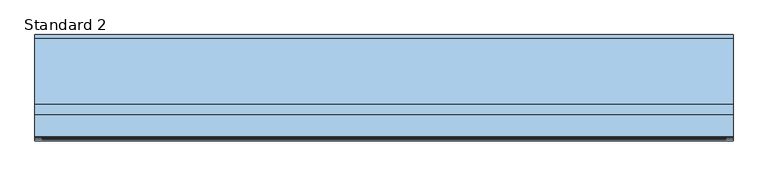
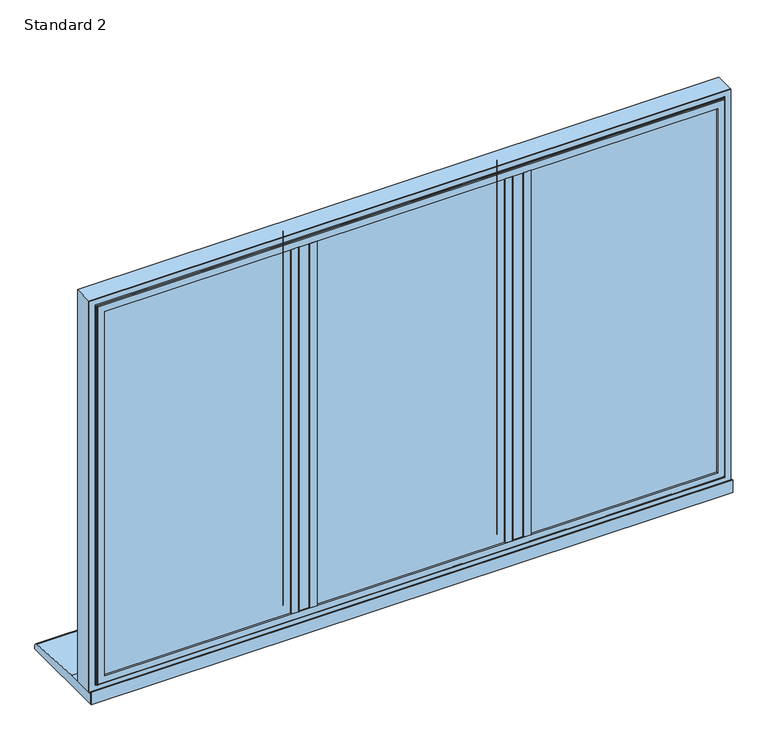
"""IFC4 building model written with IfcOpenShell, lengths in millimetres: window geometry, SMARTS_AlithermHeritage : Standard 2."""

from ifc_helpers import new_model, si_unit, point, frame, frame_2d, origin, place, context, project, spatial, polyline, circle_curve, ellipse_curve, trimmed, segment, composite_curve, outline, extrude, faceted_brep, source, transform, mapped, element, save
from ifc_brep_helpers import plane_surface, cylinder_surface, revolved_surface, advanced_brep


def standard_2_6f74c63c(model_context):
    return source(origin(), model_context, "Body", "SolidModel", [
        extrude(outline(polyline([(-260.3608122, 95.2798432), (-232.9725211, 95.2798432), (-232.9725211, 47.279476), (-260.3608122, 47.279476), (-260.3608122, 95.2798432)])), frame((0.0, 0.0, 652.6941456), z_axis=(0.0, 0.0, 1.0), x_axis=(1.0, 0.0, 0.0)), (0.0, 0.0, 1.0), 919.6117089),
        extrude(outline(composite_curve([segment(polyline([(-275.6666667, 47.279476), (-217.6666667, 47.279476), (-217.6666667, 43.2798432), (-233.6666667, 43.2798432)]), True, "CONTINUOUS"), segment(trimmed(circle_curve(frame_2d((-233.6666667, 44.2798432)), 1.0), [point((-233.6666667, 43.2798432))], [point((-234.6666667, 44.2798432))], False, "CARTESIAN"), True, "CONTINUOUS"), segment(polyline([(-234.6666667, 44.2798432), (-234.6666667, 45.7798432), (-258.6666667, 45.7798432), (-258.6666667, 44.2798432)]), True, "CONTINUOUS"), segment(trimmed(circle_curve(frame_2d((-259.6666667, 44.2798432)), 1.0), [point((-258.6666667, 44.2798432))], [point((-259.6666667, 43.2798432))], False, "CARTESIAN"), True, "CONTINUOUS"), segment(polyline([(-259.6666667, 43.2798432), (-275.6666667, 43.2798432), (-275.6666667, 47.279476)]), True, "CONTINUOUS")], self_intersect=False)), frame((0.0, 0.0, 668.0), z_axis=(0.0, 0.0, 1.0), x_axis=(1.0, 0.0, 0.0)), (0.0, 0.0, 1.0), 889.0),
        extrude(outline(polyline([(232.9725211, 95.2798432), (260.3608122, 95.2798432), (260.3608122, 47.279476), (232.9725211, 47.279476), (232.9725211, 95.2798432)])), frame((0.0, 0.0, 652.6941456), z_axis=(0.0, 0.0, 1.0), x_axis=(1.0, 0.0, 0.0)), (0.0, 0.0, 1.0), 919.6117089),
        extrude(outline(composite_curve([segment(polyline([(217.6666667, 47.279476), (275.6666667, 47.279476), (275.6666667, 43.2798432), (259.6666667, 43.2798432)]), True, "CONTINUOUS"), segment(trimmed(circle_curve(frame_2d((259.6666667, 44.2798432)), 1.0), [point((259.6666667, 43.2798432))], [point((258.6666667, 44.2798432))], False, "CARTESIAN"), True, "CONTINUOUS"), segment(polyline([(258.6666667, 44.2798432), (258.6666667, 45.7798432), (234.6666667, 45.7798432), (234.6666667, 44.2798432)]), True, "CONTINUOUS"), segment(trimmed(circle_curve(frame_2d((233.6666667, 44.2798432)), 1.0), [point((234.6666667, 44.2798432))], [point((233.6666667, 43.2798432))], False, "CARTESIAN"), True, "CONTINUOUS"), segment(polyline([(233.6666667, 43.2798432), (217.6666667, 43.2798432), (217.6666667, 47.279476)]), True, "CONTINUOUS")], self_intersect=False)), frame((0.0, 0.0, 668.0), z_axis=(0.0, 0.0, 1.0), x_axis=(1.0, 0.0, 0.0)), (0.0, 0.0, 1.0), 889.0),
        extrude(outline(polyline([(-717.0, 75.2798432), (-265.6666667, 75.2798432), (-265.6666667, 71.2798432), (-717.0, 71.2798432), (-717.0, 75.2798432)])), frame((0.0, 0.0, 658.0), z_axis=(0.0, 0.0, 1.0), x_axis=(1.0, 0.0, 0.0)), (0.0, 0.0, 1.0), 909.0),
        extrude(outline(polyline([(-717.0, 55.2798432), (-265.6666667, 55.2798432), (-265.6666667, 51.2798432), (-717.0, 51.2798432), (-717.0, 55.2798432)])), frame((0.0, 0.0, 658.0), z_axis=(0.0, 0.0, 1.0), x_axis=(1.0, 0.0, 0.0)), (0.0, 0.0, 1.0), 909.0),
        extrude(outline(polyline([(1567.0, -717.0), (658.0, -717.0), (658.0, -265.6666667), (1567.0, -265.6666667), (1567.0, -717.0)]), holes=[polyline([(1557.0, -275.6666667), (668.0, -275.6666667), (668.0, -707.0), (1557.0, -707.0), (1557.0, -275.6666667)])]), frame((0.0, 55.2798432, 0.0), z_axis=(0.0, 1.0, 0.0), x_axis=(0.0, 0.0, 1.0)), (0.0, 0.0, 1.0), 16.0),
        faceted_brep([(-265.8517818, 95.2798432, 1566.8148849), (-275.6666667, 78.2798098, 1557.0), (-707.0, 78.2798098, 1557.0), (-716.8148849, 95.2798432, 1566.8148849), (-260.2963991, 78.2798098, 1572.3702676), (-260.2963991, 95.2798432, 1572.3702676), (-722.3702676, 95.2798432, 1572.3702676), (-722.3702676, 78.2798098, 1572.3702676), (-722.3702676, 78.2798098, 652.6297324), (-722.3702676, 95.2798432, 652.6297324), (-260.2963991, 95.2798432, 652.6297324), (-260.2963991, 78.2798098, 652.6297324), (-716.8148849, 95.2798432, 658.1851151), (-265.8517818, 95.2798432, 658.1851151), (-275.6666667, 78.2798098, 668.0), (-707.0, 78.2798098, 668.0)], [[[0, 1, 2, 3]], [[4, 5, 6, 7]], [[8, 9, 10, 11]], [[5, 10, 9, 6], [3, 12, 13, 0]], [[7, 8, 11, 4], [1, 14, 15, 2]], [[3, 2, 15, 12]], [[7, 6, 9, 8]], [[12, 15, 14, 13]], [[13, 14, 1, 0]], [[11, 10, 5, 4]]]),
        extrude(outline(polyline([(-227.6666667, 75.2798432), (227.6666667, 75.2798432), (227.6666667, 71.2798432), (-227.6666667, 71.2798432), (-227.6666667, 75.2798432)])), frame((0.0, 0.0, 658.0), z_axis=(0.0, 0.0, 1.0), x_axis=(1.0, 0.0, 0.0)), (0.0, 0.0, 1.0), 909.0),
        extrude(outline(polyline([(-227.6666667, 55.2798432), (227.6666667, 55.2798432), (227.6666667, 51.2798432), (-227.6666667, 51.2798432), (-227.6666667, 55.2798432)])), frame((0.0, 0.0, 658.0), z_axis=(0.0, 0.0, 1.0), x_axis=(1.0, 0.0, 0.0)), (0.0, 0.0, 1.0), 909.0),
        extrude(outline(polyline([(1567.0, -227.6666667), (658.0, -227.6666667), (658.0, 227.6666667), (1567.0, 227.6666667), (1567.0, -227.6666667)]), holes=[polyline([(1557.0, 217.6666667), (668.0, 217.6666667), (668.0, -217.6666667), (1557.0, -217.6666667), (1557.0, 217.6666667)])]), frame((0.0, 55.2798432, 0.0), z_axis=(0.0, 1.0, 0.0), x_axis=(0.0, 0.0, 1.0)), (0.0, 0.0, 1.0), 16.0),
        faceted_brep([(227.4815515, 95.2798432, 1566.8148849), (217.6666667, 78.2798098, 1557.0), (-217.6666667, 78.2798098, 1557.0), (-227.4815515, 95.2798432, 1566.8148849), (233.0369343, 78.2798098, 1572.3702676), (233.0369343, 95.2798432, 1572.3702676), (-233.0369343, 95.2798432, 1572.3702676), (-233.0369343, 78.2798098, 1572.3702676), (-233.0369343, 78.2798098, 652.6297324), (-233.0369343, 95.2798432, 652.6297324), (233.0369343, 95.2798432, 652.6297324), (233.0369343, 78.2798098, 652.6297324), (-227.4815515, 95.2798432, 658.1851151), (227.4815515, 95.2798432, 658.1851151), (217.6666667, 78.2798098, 668.0), (-217.6666667, 78.2798098, 668.0)], [[[0, 1, 2, 3]], [[4, 5, 6, 7]], [[8, 9, 10, 11]], [[5, 10, 9, 6], [3, 12, 13, 0]], [[7, 8, 11, 4], [1, 14, 15, 2]], [[3, 2, 15, 12]], [[7, 6, 9, 8]], [[12, 15, 14, 13]], [[13, 14, 1, 0]], [[11, 10, 5, 4]]]),
        extrude(outline(polyline([(1590.0, 740.0), (1590.0, -740.0), (635.0, -740.0), (635.0, 740.0), (1590.0, 740.0)]), holes=[polyline([(652.7000182, 722.2999818), (652.7000182, -722.2999818), (1572.2999818, -722.2999818), (1572.2999818, 722.2999818), (652.7000182, 722.2999818)])]), frame((0.0, 50.279857, 0.0), z_axis=(0.0, 1.0, 0.0), x_axis=(0.0, 0.0, 1.0)), (0.0, 0.0, 1.0), 44.9999962),
        advanced_brep(
        [(707.0, 43.2798432, 1557.0), (707.0, 47.2798432, 1557.0), (707.0, 47.2798432, 668.0), (707.0, 43.2798432, 668.0), (740.0, 50.279857, 1590.0), (740.0, 48.279857, 1590.0), (740.0, 48.279857, 635.0), (740.0, 50.279857, 635.0), (722.4999818, 43.2798432, 1572.4999818), (-722.4999818, 43.2798432, 1572.4999818), (-722.4999818, 43.2798432, 652.5000182), (722.4999818, 43.2798432, 652.5000182), (-707.0, 43.2798432, 668.0), (-707.0, 43.2798432, 1557.0), (-740.0, 50.279857, 1590.0), (-740.0, 48.279857, 1590.0), (-740.0, 50.279857, 635.0), (722.2999818, 50.279857, 1572.2999818), (-722.2999818, 50.279857, 1572.2999818), (-722.2999818, 50.279857, 652.7000182), (722.2999818, 50.279857, 652.7000182), (-707.0, 47.2798432, 1557.0), (-707.0, 47.2798432, 668.0), (-740.0, 48.279857, 635.0), (-722.2999818, 47.2798432, 1572.2999818), (722.2999818, 47.2798432, 1572.2999818), (722.2999818, 47.2798432, 652.7000182), (724.4999818, 46.779857, 650.5000182), (724.4999818, 45.2798432, 650.5000182), (-724.4999818, 45.2798432, 650.5000182), (-724.4999818, 46.779857, 650.5000182), (724.4999818, 46.779857, 1574.4999818), (724.4999818, 45.2798432, 1574.4999818), (-722.2999818, 47.2798432, 652.7000182), (-724.4999818, 45.2798432, 1574.4999818), (-724.4999818, 46.779857, 1574.4999818), (725.9999818, 48.279857, 1575.9999818), (725.9999818, 48.279857, 649.0000182), (-725.9999818, 48.279857, 649.0000182), (-725.9999818, 48.279857, 1575.9999818)],
        [
            (0, 1),
            (1, 2),
            (2, 3),
            (3, 0),
            (4, 5),
            (5, 6),
            (6, 7),
            (7, 4),
            (8, 9),
            (9, 10),
            (10, 11),
            (11, 8),
            (3, 12),
            (12, 13),
            (13, 0),
            (14, 15),
            (15, 5),
            (4, 14),
            (7, 16),
            (16, 14),
            (17, 18),
            (18, 19),
            (19, 20),
            (20, 17),
            (13, 21),
            (21, 1),
            (2, 22),
            (22, 12),
            (22, 21),
            (6, 23),
            (23, 16),
            (23, 15),
            (24, 18),
            (17, 25),
            (25, 24),
            (20, 26),
            (26, 25),
            (27, 28),
            (28, 29),
            (29, 30),
            (30, 27),
            (31, 32),
            (32, 28),
            (27, 31),
            (19, 33),
            (33, 26),
            (24, 33),
            (29, 34),
            (34, 35),
            (35, 30),
            (34, 32),
            (31, 35),
            (36, 31, ellipse_curve(frame((725.9999818, 46.779857, 1575.9999818), z_axis=(-0.7071067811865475, 0.0, 0.7071067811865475), x_axis=(-0.7071067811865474, 0.0, -0.7071067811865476)), 2.1213203, 1.5)),
            (27, 37, ellipse_curve(frame((725.9999818, 46.779857, 649.0000182), z_axis=(-0.7071067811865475, 0.0, -0.7071067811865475), x_axis=(0.7071067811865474, 0.0, -0.7071067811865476)), 2.1213203, 1.5)),
            (37, 36),
            (30, 38, ellipse_curve(frame((-725.9999818, 46.779857, 649.0000182), z_axis=(-0.7071067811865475, 0.0, 0.7071067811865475), x_axis=(-0.7071067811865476, 0.0, -0.7071067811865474)), 2.1213203, 1.5)),
            (38, 37),
            (35, 39, ellipse_curve(frame((-725.9999818, 46.779857, 1575.9999818), z_axis=(0.7071067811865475, 0.0, 0.7071067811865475), x_axis=(-0.7071067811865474, 0.0, 0.7071067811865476)), 2.1213203, 1.5)),
            (39, 38),
            (36, 39),
            (32, 8, ellipse_curve(frame((722.4999818, 45.2798432, 1572.4999818), z_axis=(0.7071067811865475, 0.0, -0.7071067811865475), x_axis=(0.7071067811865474, 0.0, 0.7071067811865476)), 2.8284271, 2.0)),
            (11, 28, ellipse_curve(frame((722.4999818, 45.2798432, 652.5000182), z_axis=(0.7071067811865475, 0.0, 0.7071067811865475), x_axis=(-0.7071067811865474, 0.0, 0.7071067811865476)), 2.8284271, 2.0)),
            (10, 29, ellipse_curve(frame((-722.4999818, 45.2798432, 652.5000182), z_axis=(0.7071067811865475, 0.0, -0.7071067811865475), x_axis=(0.7071067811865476, 0.0, 0.7071067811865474)), 2.8284271, 2.0)),
            (9, 34, ellipse_curve(frame((-722.4999818, 45.2798432, 1572.4999818), z_axis=(-0.7071067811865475, 0.0, -0.7071067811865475), x_axis=(0.7071067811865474, 0.0, -0.7071067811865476)), 2.8284271, 2.0)),
        ],
        [
            plane_surface(frame((707.0, 47.2798432, 1557.0), z_axis=(-1.0, 0.0, 0.0), x_axis=(0.0, 0.0, -1.0))),
            plane_surface(frame((740.0, 48.279857, 1590.0), z_axis=(1.0, 0.0, 0.0), x_axis=(0.0, 0.0, -1.0))),
            plane_surface(frame((-707.0, 43.2798432, 1557.0), z_axis=(0.0, -1.0, 0.0), x_axis=(1.0, 0.0, 0.0))),
            plane_surface(frame((-740.0, 48.279857, 1590.0), z_axis=(0.0, 0.0, 1.0), x_axis=(1.0, 0.0, 0.0))),
            plane_surface(frame((-740.0, 50.279857, 1590.0), z_axis=(0.0, 1.0, 0.0), x_axis=(1.0, 0.0, 0.0))),
            plane_surface(frame((-707.0, 47.2798432, 1557.0), z_axis=(0.0, 0.0, -1.0), x_axis=(1.0, 0.0, 0.0))),
            plane_surface(frame((707.0, 47.2798432, 668.0), z_axis=(0.0, 0.0, 1.0), x_axis=(-1.0, 0.0, 0.0))),
            plane_surface(frame((-707.0, 47.2798432, 668.0), z_axis=(1.0, 0.0, 0.0), x_axis=(0.0, 0.0, 1.0))),
            plane_surface(frame((740.0, 48.279857, 635.0), z_axis=(0.0, 0.0, -1.0), x_axis=(-1.0, 0.0, 0.0))),
            plane_surface(frame((-740.0, 48.279857, 635.0), z_axis=(-1.0, 0.0, 0.0), x_axis=(0.0, 0.0, 1.0))),
            plane_surface(frame((-722.2999818, 50.279857, 1572.2999818), z_axis=(0.0, 0.0, -1.0), x_axis=(1.0, 0.0, 0.0))),
            plane_surface(frame((722.2999818, 50.279857, 1572.2999818), z_axis=(-1.0, 0.0, 0.0), x_axis=(0.0, 0.0, -1.0))),
            plane_surface(frame((724.4999818, 45.2798432, 650.5000182), z_axis=(0.0, 0.0, -1.0), x_axis=(-1.0, 0.0, 0.0))),
            plane_surface(frame((724.4999818, 45.2798432, 1574.4999818), z_axis=(1.0, 0.0, 0.0), x_axis=(0.0, 0.0, -1.0))),
            plane_surface(frame((722.2999818, 50.279857, 652.7000182), z_axis=(0.0, 0.0, 1.0), x_axis=(-1.0, 0.0, 0.0))),
            plane_surface(frame((-722.2999818, 50.279857, 652.7000182), z_axis=(1.0, 0.0, 0.0), x_axis=(0.0, 0.0, 1.0))),
            plane_surface(frame((-724.4999818, 45.2798432, 650.5000182), z_axis=(-1.0, 0.0, 0.0), x_axis=(0.0, 0.0, 1.0))),
            plane_surface(frame((-722.2999818, 47.2798432, 1572.2999818), z_axis=(0.0, 1.0, 0.0), x_axis=(1.0, 0.0, 0.0))),
            plane_surface(frame((-724.4999818, 45.2798432, 1574.4999818), z_axis=(0.0, 0.0, 1.0), x_axis=(1.0, 0.0, 0.0))),
            revolved_surface(polyline([(724.4999818, 46.779857, 647.5000182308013), (724.4999818, 46.779857, 1577.4999817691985)]), (725.9999818, 46.779857, 1590.0), (0.0, 0.0, -1.0)),
            revolved_surface(polyline([(-727.4999817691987, 46.779857, 650.5000182), (727.4999817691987, 46.779857, 650.5000182)]), (740.0, 46.779857, 649.0000182), (-1.0, 0.0, 0.0)),
            revolved_surface(polyline([(-724.4999818, 46.779857, 1577.4999817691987), (-724.4999818, 46.779857, 647.5000182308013)]), (-725.9999818, 46.779857, 635.0), (0.0, 0.0, 1.0)),
            revolved_surface(polyline([(727.4999817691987, 46.779857, 1574.4999818), (-727.4999817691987, 46.779857, 1574.4999818)]), (-740.0, 46.779857, 1575.9999818), (1.0, 0.0, 0.0)),
            plane_surface(frame((-725.9999818, 48.279857, 1575.9999818), z_axis=(0.0, -1.0, 0.0), x_axis=(1.0, 0.0, 0.0))),
            cylinder_surface(frame((722.4999818, 45.2798432, 1590.0), z_axis=(0.0, 0.0, 1.0), x_axis=(-1.0, 0.0, 0.0)), 2.0),
            cylinder_surface(frame((740.0, 45.2798432, 652.5000182), z_axis=(1.0, 0.0, 0.0), x_axis=(0.0, 0.0, 1.0)), 2.0),
            cylinder_surface(frame((-722.4999818, 45.2798432, 635.0), z_axis=(0.0, 0.0, -1.0), x_axis=(1.0, 0.0, 0.0)), 2.0),
            cylinder_surface(frame((-740.0, 45.2798432, 1572.4999818), z_axis=(-1.0, 0.0, 0.0), x_axis=(0.0, 0.0, -1.0)), 2.0),
        ],
        [
            (0, [[1, 2, 3, 4]]),
            (1, [[5, 6, 7, 8]]),
            (2, [[9, 10, 11, 12], [13, 14, 15, -4]]),
            (3, [[16, 17, -5, 18]]),
            (4, [[19, 20, -18, -8], [21, 22, 23, 24]]),
            (5, [[25, 26, -1, -15]]),
            (6, [[-3, 27, 28, -13]]),
            (7, [[-28, 29, -25, -14]]),
            (8, [[-7, 30, 31, -19]]),
            (9, [[-31, 32, -16, -20]]),
            (10, [[33, -21, 34, 35]]),
            (11, [[-34, -24, 36, 37]]),
            (12, [[38, 39, 40, 41]]),
            (13, [[42, 43, -38, 44]]),
            (14, [[-36, -23, 45, 46]]),
            (15, [[-45, -22, -33, 47]]),
            (16, [[-40, 48, 49, 50]]),
            (17, [[-46, -47, -35, -37], [-26, -29, -27, -2]]),
            (18, [[-49, 51, -42, 52]]),
            (19, [[53, -44, 54, 55]]),
            (20, [[-54, -41, 56, 57]]),
            (21, [[-56, -50, 58, 59]]),
            (22, [[-58, -52, -53, 60]]),
            (23, [[-17, -32, -30, -6], [-57, -59, -60, -55]]),
            (24, [[61, -12, 62, -43]]),
            (25, [[-62, -11, 63, -39]]),
            (26, [[-63, -10, 64, -48]]),
            (27, [[-64, -9, -61, -51]]),
        ],
    ),
        extrude(outline(polyline([(265.6666667, 75.2798432), (717.0, 75.2798432), (717.0, 71.2798432), (265.6666667, 71.2798432), (265.6666667, 75.2798432)])), frame((0.0, 0.0, 658.0), z_axis=(0.0, 0.0, 1.0), x_axis=(1.0, 0.0, 0.0)), (0.0, 0.0, 1.0), 909.0),
        extrude(outline(polyline([(265.6666667, 55.2798432), (717.0, 55.2798432), (717.0, 51.2798432), (265.6666667, 51.2798432), (265.6666667, 55.2798432)])), frame((0.0, 0.0, 658.0), z_axis=(0.0, 0.0, 1.0), x_axis=(1.0, 0.0, 0.0)), (0.0, 0.0, 1.0), 909.0),
        extrude(outline(polyline([(1567.0, 265.6666667), (658.0, 265.6666667), (658.0, 717.0), (1567.0, 717.0), (1567.0, 265.6666667)]), holes=[polyline([(1557.0, 707.0), (668.0, 707.0), (668.0, 275.6666667), (1557.0, 275.6666667), (1557.0, 707.0)])]), frame((0.0, 55.2798432, 0.0), z_axis=(0.0, 1.0, 0.0), x_axis=(0.0, 0.0, 1.0)), (0.0, 0.0, 1.0), 16.0),
        faceted_brep([(716.8148849, 95.2798432, 1566.8148849), (707.0, 78.2798098, 1557.0), (275.6666667, 78.2798098, 1557.0), (265.8517818, 95.2798432, 1566.8148849), (722.3702676, 78.2798098, 1572.3702676), (722.3702676, 95.2798432, 1572.3702676), (260.2963991, 95.2798432, 1572.3702676), (260.2963991, 78.2798098, 1572.3702676), (260.2963991, 78.2798098, 652.6297324), (260.2963991, 95.2798432, 652.6297324), (722.3702676, 95.2798432, 652.6297324), (722.3702676, 78.2798098, 652.6297324), (265.8517818, 95.2798432, 658.1851151), (716.8148849, 95.2798432, 658.1851151), (707.0, 78.2798098, 668.0), (275.6666667, 78.2798098, 668.0)], [[[0, 1, 2, 3]], [[4, 5, 6, 7]], [[8, 9, 10, 11]], [[5, 10, 9, 6], [3, 12, 13, 0]], [[7, 8, 11, 4], [1, 14, 15, 2]], [[3, 2, 15, 12]], [[7, 6, 9, 8]], [[12, 15, 14, 13]], [[13, 14, 1, 0]], [[11, 10, 5, 4]]]),
        extrude(outline(polyline([(740.0, 43.2798432), (740.0, 40.7798432), (-740.0, 40.7798432), (-740.0, 43.2798432), (740.0, 43.2798432)])), frame((0.0, 0.0, 610.0), z_axis=(0.0, 0.0, 1.0), x_axis=(1.0, 0.0, 0.0)), (0.0, 0.0, 1.0), 31.0),
        extrude(outline(composite_curve([segment(polyline([(265.7798432, 610.0), (43.2798432, 610.0), (43.2798432, 635.0), (118.7798432, 635.0), (258.4770891, 625.9276664)]), True, "CONTINUOUS"), segment(trimmed(circle_curve(frame_2d((257.7798432, 617.9581088)), 8.0), [point((258.4770891, 625.9276664))], [point((265.7798432, 617.9581088))], False, "CARTESIAN"), True, "CONTINUOUS"), segment(polyline([(265.7798432, 617.9581088), (265.7798432, 610.0)]), True, "CONTINUOUS")], self_intersect=False)), frame((-740.0, 0.0, 0.0), z_axis=(1.0, 0.0, 0.0), x_axis=(0.0, 1.0, 0.0)), (0.0, 0.0, 1.0), 1480.0),
    ])


if __name__ == "__main__":
    model = new_model("IFC4")
    model_context = context("Model", 3, world=origin())
    ifc_project = project(units=[si_unit("LENGTHUNIT", "METRE", prefix="MILLI")], contexts=[model_context])
    site = spatial("IfcSite", under=ifc_project)
    building = spatial("IfcBuilding", under=site)
    placement = place(None, origin())
    standard_2_shape = standard_2_6f74c63c(model_context)
    element("IfcWindow", 1, ObjectType="SMARTS_AlithermHeritage : Standard 2", at=placement, inside=building, context=model_context, shape_type="MappedRepresentation", body=[
        mapped(standard_2_shape, transform((0.0, 0.0, 0.0), x_axis=(1.0, 0.0, 0.0), y_axis=(0.0, 1.0, 0.0), z_axis=(0.0, 0.0, 1.0))),
    ])
    save(model, "model.ifc")
